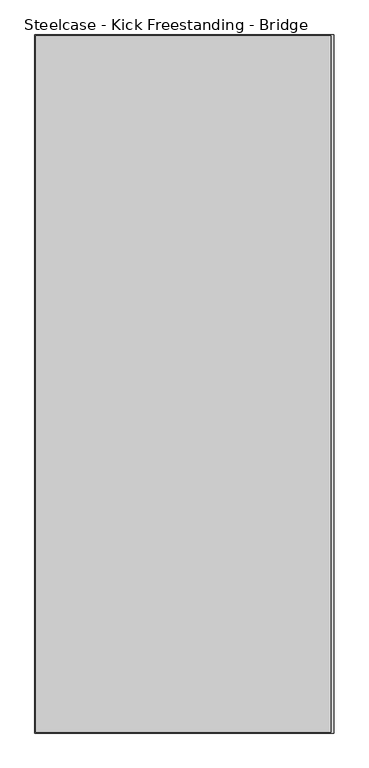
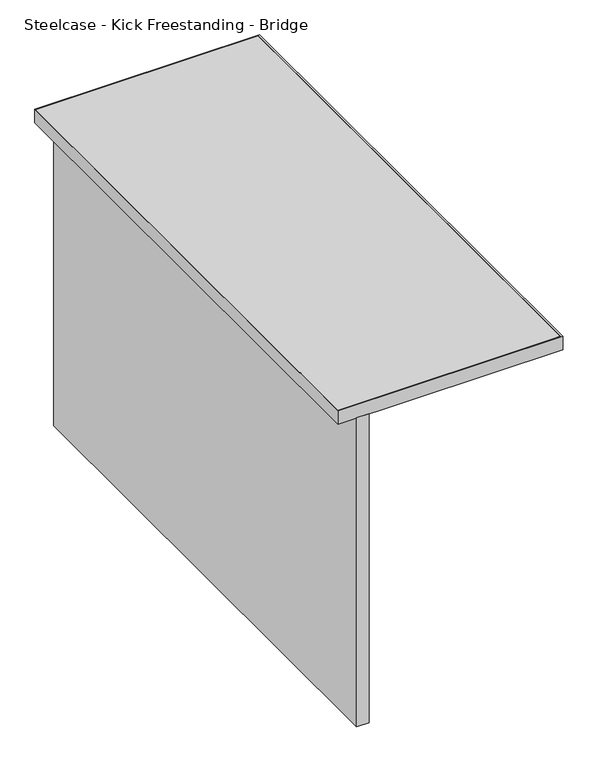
"""IFC4 building model written with IfcOpenShell, lengths in millimetres: furniture geometry, Steelcase - Kick Freestanding - Bridge : 18D x 42W - Full Panel."""

from ifc_helpers import new_model, si_unit, frame, origin, place, context, project, spatial, polyline, outline, extrude, source, transform, mapped, element, save


def steelcase_kick_freestanding_bridge_4b15fa9b(model_context):
    return source(origin(), model_context, "Body", "SweptSolid", [
        extrude(outline(polyline([(2201.9594425, -1613.6145152), (2201.9594425, -546.8145152), (2227.3594425, -546.8145152), (2227.3594425, -1613.6145152), (2201.9594425, -1613.6145152)])), frame((0.0, 0.0, 18.542), z_axis=(0.0, 0.0, 1.0), x_axis=(1.0, 0.0, 0.0)), (0.0, 0.0, 1.0), 663.702),
        extrude(outline(polyline([(2616.8176592, -548.0845152), (2616.8176592, -1612.3445152), (2164.8500425, -1612.3445152), (2164.8500425, -548.0845152), (2616.8176592, -548.0845152)])), frame((0.0, 0.0, 682.244), z_axis=(0.0, 0.0, 1.0), x_axis=(1.0, 0.0, 0.0)), (0.0, 0.0, 1.0), 28.956),
        extrude(outline(polyline([(2621.0594425, -546.8145152), (2621.0594425, -1613.6145152), (2163.8594425, -1613.6145152), (2163.8594425, -546.8145152), (2621.0594425, -546.8145152)]), holes=[polyline([(2616.8176592, -548.0845152), (2164.8500425, -548.0845152), (2164.8500425, -1612.3445152), (2616.8176592, -1612.3445152), (2616.8176592, -548.0845152)])]), frame((0.0, 0.0, 682.244), z_axis=(0.0, 0.0, 1.0), x_axis=(1.0, 0.0, 0.0)), (0.0, 0.0, 1.0), 28.956),
    ])


if __name__ == "__main__":
    model = new_model("IFC4")
    model_context = context("Model", 3, world=origin())
    ifc_project = project(units=[si_unit("LENGTHUNIT", "METRE", prefix="MILLI")], contexts=[model_context])
    site = spatial("IfcSite", under=ifc_project)
    building = spatial("IfcBuilding", under=site)
    placement = place(None, origin())
    steelcase_kick_freestanding_bridge_shape = steelcase_kick_freestanding_bridge_4b15fa9b(model_context)
    element("IfcFurniture", 1, ObjectType="Steelcase - Kick Freestanding - Bridge : 18D x 42W - Full Panel", at=placement, inside=building, context=model_context, shape_type="MappedRepresentation", body=[
        mapped(steelcase_kick_freestanding_bridge_shape, transform((0.0, 0.0, 0.0), x_axis=(1.0, 0.0, 0.0), y_axis=(0.0, 1.0, 0.0), z_axis=(0.0, 0.0, 1.0))),
    ])
    save(model, "model.ifc")
